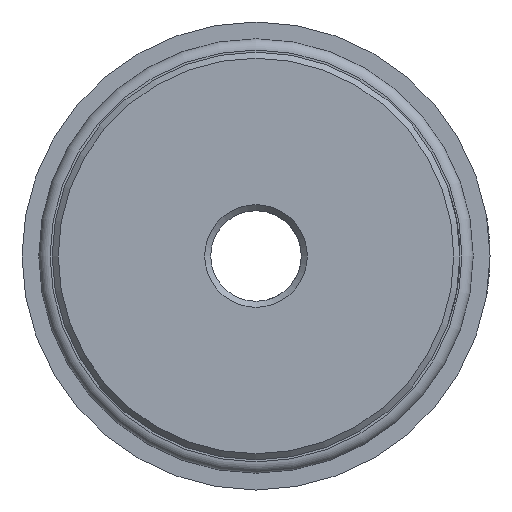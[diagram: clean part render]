
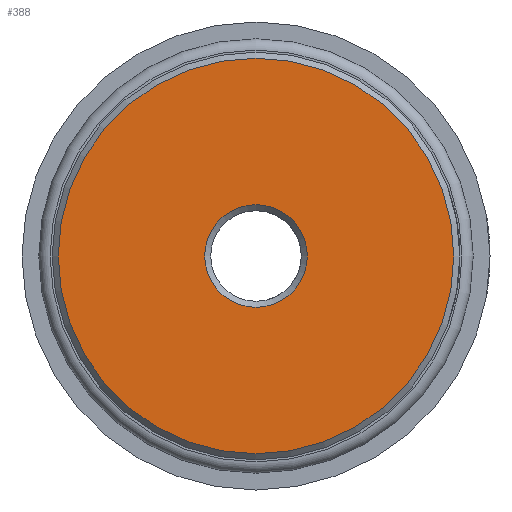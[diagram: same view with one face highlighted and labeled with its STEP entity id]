
A CAD part, left-side view. The second image highlights one B-rep face of the part: STEP entity #388.
In plain terms, the highlighted planar face has unit normal (-1, 0, 0).
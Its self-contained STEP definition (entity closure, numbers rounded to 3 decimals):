
#388 = ADVANCED_FACE( 'NONE', ( #841, #842 ), #843, .F. );
#841 = FACE_OUTER_BOUND( '', #1454, .T. );
#842 = FACE_BOUND( '', #1455, .T. );
#843 = PLANE( '', #1456 );
#1454 = EDGE_LOOP( '', ( #2246 ) );
#1455 = EDGE_LOOP( '', ( #2247 ) );
#1456 = AXIS2_PLACEMENT_3D( '', #2248, #2249, #2250 );
#2246 = ORIENTED_EDGE( '', *, *, #3323, .T. );
#2247 = ORIENTED_EDGE( '', *, *, #3324, .T. );
#2248 = CARTESIAN_POINT( '', ( 0., 1.5, 0. ) );
#2249 = DIRECTION( '', ( 1., 0., 0. ) );
#2250 = DIRECTION( '', ( 0., 1., 0. ) );
#3323 = EDGE_CURVE( 'NONE', #3911, #3911, #3912, .F. );
#3324 = EDGE_CURVE( 'NONE', #3913, #3913, #3914, .T. );
#3911 = VERTEX_POINT( '', #4700 );
#3912 = CIRCLE( '', #4701, 6.55 );
#3913 = VERTEX_POINT( '', #4702 );
#3914 = CIRCLE( '', #4703, 1.7 );
#4700 = CARTESIAN_POINT( '', ( 0., 0., -6.55 ) );
#4701 = AXIS2_PLACEMENT_3D( '', #5464, #5465, #5466 );
#4702 = CARTESIAN_POINT( '', ( 0., 0., -1.7 ) );
#4703 = AXIS2_PLACEMENT_3D( '', #5467, #5468, #5469 );
#5464 = CARTESIAN_POINT( '', ( 0., 0., 0. ) );
#5465 = DIRECTION( '', ( 1., 0., 0. ) );
#5466 = DIRECTION( '', ( 0., 0., -1. ) );
#5467 = CARTESIAN_POINT( '', ( 0., 0., 0. ) );
#5468 = DIRECTION( '', ( 1., 0., 0. ) );
#5469 = DIRECTION( '', ( 0., 0., -1. ) );
